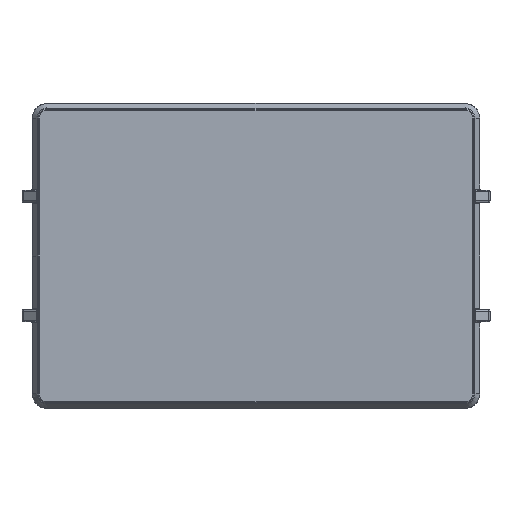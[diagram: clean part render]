
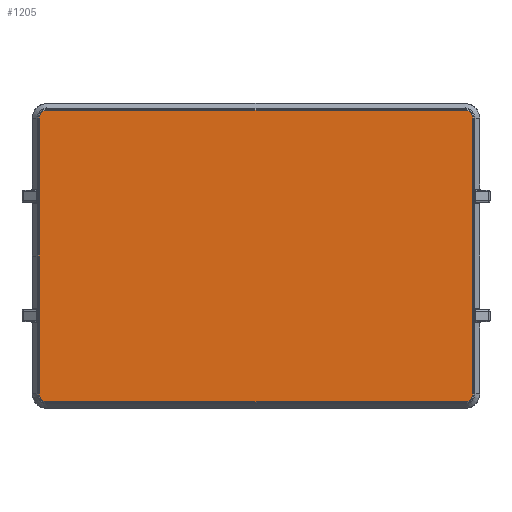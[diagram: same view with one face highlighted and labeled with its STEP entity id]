
A CAD part, front view. The second image highlights one B-rep face of the part: STEP entity #1205.
In plain terms, the highlighted planar face has unit normal (0, -1, 0).
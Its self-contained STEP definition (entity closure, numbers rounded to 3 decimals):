
#34 = EDGE_LOOP ( 'NONE', ( #14351, #14219, #2486, #7142, #14991, #13433, #14485, #2179, #8899 ) ) ;
#135 = EDGE_CURVE ( 'NONE', #10045, #5041, #14583, .T. ) ;
#507 = LINE ( 'NONE', #5189, #3360 ) ;
#555 = VECTOR ( 'NONE', #8492, 1000. ) ;
#582 = VERTEX_POINT ( 'NONE', #8249 ) ;
#908 = AXIS2_PLACEMENT_3D ( 'NONE', #3386, #4745, #4663 ) ;
#1205 = ADVANCED_FACE ( 'NONE', ( #3450 ), #4593, .F. ) ;
#1215 = VERTEX_POINT ( 'NONE', #10427 ) ;
#1218 = DIRECTION ( 'NONE',  ( 0., -1., 0. ) ) ;
#1333 = AXIS2_PLACEMENT_3D ( 'NONE', #8102, #1348, #11923 ) ;
#1348 = DIRECTION ( 'NONE',  ( 0., -1., 0. ) ) ;
#1588 = VECTOR ( 'NONE', #12335, 1000. ) ;
#1685 = CARTESIAN_POINT ( 'NONE',  ( 91.334, -19., -58. ) ) ;
#1715 = EDGE_CURVE ( 'NONE', #11053, #10045, #6946, .T. ) ;
#2179 = ORIENTED_EDGE ( 'NONE', *, *, #4749, .T. ) ;
#2291 = EDGE_CURVE ( 'NONE', #4288, #582, #13554, .T. ) ;
#2486 = ORIENTED_EDGE ( 'NONE', *, *, #5779, .T. ) ;
#2508 = EDGE_CURVE ( 'NONE', #7487, #11053, #10805, .T. ) ;
#3042 = CIRCLE ( 'NONE', #1333, 3.334 ) ;
#3321 = CARTESIAN_POINT ( 'NONE',  ( -88., -19., -61.334 ) ) ;
#3360 = VECTOR ( 'NONE', #9880, 1000. ) ;
#3386 = CARTESIAN_POINT ( 'NONE',  ( -91.334, -19., 0. ) ) ;
#3450 = FACE_OUTER_BOUND ( 'NONE', #34, .T. ) ;
#3857 = VERTEX_POINT ( 'NONE', #7896 ) ;
#4288 = VERTEX_POINT ( 'NONE', #10172 ) ;
#4593 = PLANE ( 'NONE',  #908 ) ;
#4663 = DIRECTION ( 'NONE',  ( 0., 0., 1. ) ) ;
#4745 = DIRECTION ( 'NONE',  ( 0., 1., 0. ) ) ;
#4749 = EDGE_CURVE ( 'NONE', #1215, #7487, #3042, .T. ) ;
#5041 = VERTEX_POINT ( 'NONE', #3321 ) ;
#5189 = CARTESIAN_POINT ( 'NONE',  ( 88., -19., 61.334 ) ) ;
#5191 = CIRCLE ( 'NONE', #7411, 3.334 ) ;
#5527 = CARTESIAN_POINT ( 'NONE',  ( 88., -19., 58. ) ) ;
#5709 = EDGE_CURVE ( 'NONE', #582, #1215, #507, .T. ) ;
#5779 = EDGE_CURVE ( 'NONE', #5041, #8919, #13775, .T. ) ;
#5820 = DIRECTION ( 'NONE',  ( 1., 0., 0. ) ) ;
#6033 = CARTESIAN_POINT ( 'NONE',  ( -91.334, -19., 58. ) ) ;
#6212 = CARTESIAN_POINT ( 'NONE',  ( -91.334, -19., 58. ) ) ;
#6446 = CARTESIAN_POINT ( 'NONE',  ( -91.334, -19., -58. ) ) ;
#6481 = AXIS2_PLACEMENT_3D ( 'NONE', #5527, #11273, #12432 ) ;
#6946 = LINE ( 'NONE', #11618, #555 ) ;
#7142 = ORIENTED_EDGE ( 'NONE', *, *, #12858, .T. ) ;
#7271 = CARTESIAN_POINT ( 'NONE',  ( -88., -19., -58. ) ) ;
#7411 = AXIS2_PLACEMENT_3D ( 'NONE', #7793, #14916, #13455 ) ;
#7487 = VERTEX_POINT ( 'NONE', #6033 ) ;
#7516 = DIRECTION ( 'NONE',  ( 0., 0., -1. ) ) ;
#7793 = CARTESIAN_POINT ( 'NONE',  ( 88., -19., -58. ) ) ;
#7896 = CARTESIAN_POINT ( 'NONE',  ( 91.334, -19., -58. ) ) ;
#8052 = CARTESIAN_POINT ( 'NONE',  ( -88., -19., -61.334 ) ) ;
#8102 = CARTESIAN_POINT ( 'NONE',  ( -88., -19., 58. ) ) ;
#8249 = CARTESIAN_POINT ( 'NONE',  ( 88., -19., 61.334 ) ) ;
#8492 = DIRECTION ( 'NONE',  ( 0., 0., -1. ) ) ;
#8899 = ORIENTED_EDGE ( 'NONE', *, *, #2508, .T. ) ;
#8919 = VERTEX_POINT ( 'NONE', #13111 ) ;
#9641 = DIRECTION ( 'NONE',  ( -1., 0., 0. ) ) ;
#9880 = DIRECTION ( 'NONE',  ( -1., 0., 0. ) ) ;
#9988 = EDGE_CURVE ( 'NONE', #3857, #4288, #14564, .T. ) ;
#10045 = VERTEX_POINT ( 'NONE', #6446 ) ;
#10172 = CARTESIAN_POINT ( 'NONE',  ( 91.334, -19., 58. ) ) ;
#10427 = CARTESIAN_POINT ( 'NONE',  ( -88., -19., 61.334 ) ) ;
#10805 = LINE ( 'NONE', #6212, #11602 ) ;
#11053 = VERTEX_POINT ( 'NONE', #13803 ) ;
#11273 = DIRECTION ( 'NONE',  ( 0., -1., 0. ) ) ;
#11602 = VECTOR ( 'NONE', #7516, 1000. ) ;
#11618 = CARTESIAN_POINT ( 'NONE',  ( -91.334, -19., 0. ) ) ;
#11923 = DIRECTION ( 'NONE',  ( 0., 0., 1. ) ) ;
#12335 = DIRECTION ( 'NONE',  ( 0., 0., 1. ) ) ;
#12371 = AXIS2_PLACEMENT_3D ( 'NONE', #7271, #1218, #9641 ) ;
#12432 = DIRECTION ( 'NONE',  ( 1., 0., 0. ) ) ;
#12858 = EDGE_CURVE ( 'NONE', #8919, #3857, #5191, .T. ) ;
#13111 = CARTESIAN_POINT ( 'NONE',  ( 88., -19., -61.334 ) ) ;
#13433 = ORIENTED_EDGE ( 'NONE', *, *, #2291, .T. ) ;
#13455 = DIRECTION ( 'NONE',  ( 0., 0., -1. ) ) ;
#13554 = CIRCLE ( 'NONE', #6481, 3.334 ) ;
#13775 = LINE ( 'NONE', #8052, #15124 ) ;
#13803 = CARTESIAN_POINT ( 'NONE',  ( -91.334, -19., 0. ) ) ;
#14219 = ORIENTED_EDGE ( 'NONE', *, *, #135, .T. ) ;
#14351 = ORIENTED_EDGE ( 'NONE', *, *, #1715, .T. ) ;
#14485 = ORIENTED_EDGE ( 'NONE', *, *, #5709, .T. ) ;
#14564 = LINE ( 'NONE', #1685, #1588 ) ;
#14583 = CIRCLE ( 'NONE', #12371, 3.334 ) ;
#14916 = DIRECTION ( 'NONE',  ( 0., -1., 0. ) ) ;
#14991 = ORIENTED_EDGE ( 'NONE', *, *, #9988, .T. ) ;
#15124 = VECTOR ( 'NONE', #5820, 1000. ) ;
